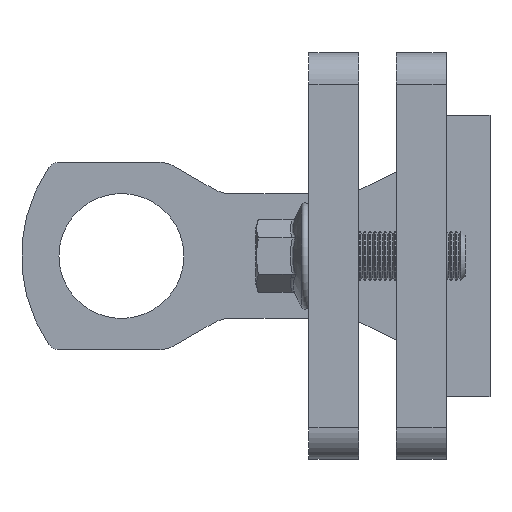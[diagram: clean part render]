
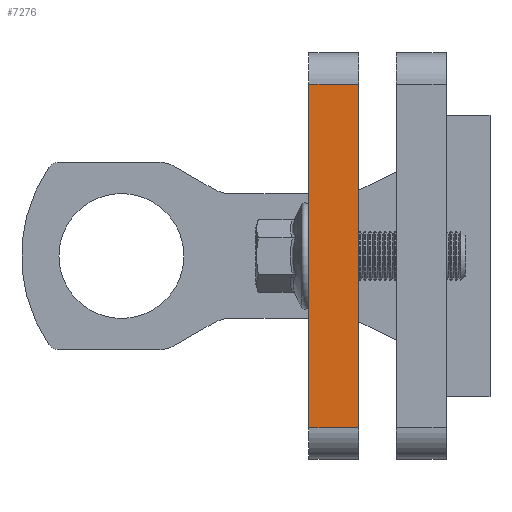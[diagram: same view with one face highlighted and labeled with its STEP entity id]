
A CAD part, left-side view. The second image highlights one B-rep face of the part: STEP entity #7276.
In plain terms, the highlighted planar face has unit normal (-1, 0, 0).
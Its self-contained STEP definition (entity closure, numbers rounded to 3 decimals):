
#215 = CARTESIAN_POINT ( 'NONE',  ( -62.5, 4., -32.5 ) ) ;
#613 = DIRECTION ( 'NONE',  ( 0., 0., -1. ) ) ;
#876 = ORIENTED_EDGE ( 'NONE', *, *, #5001, .T. ) ;
#949 = LINE ( 'NONE', #215, #1747 ) ;
#1096 = EDGE_CURVE ( 'NONE', #6432, #5839, #949, .T. ) ;
#1148 = CARTESIAN_POINT ( 'NONE',  ( -62.5, -4., -27.5 ) ) ;
#1214 = DIRECTION ( 'NONE',  ( 1., 0., 0. ) ) ;
#1229 = ORIENTED_EDGE ( 'NONE', *, *, #1096, .F. ) ;
#1622 = CARTESIAN_POINT ( 'NONE',  ( -62.5, 4., 27.5 ) ) ;
#1710 = CARTESIAN_POINT ( 'NONE',  ( -62.5, 4., -27.5 ) ) ;
#1747 = VECTOR ( 'NONE', #3459, 1000. ) ;
#1763 = DIRECTION ( 'NONE',  ( 0., -1., 0. ) ) ;
#2597 = CARTESIAN_POINT ( 'NONE',  ( -62.5, 4., -32.5 ) ) ;
#2863 = DIRECTION ( 'NONE',  ( 0., 1., 0. ) ) ;
#3137 = EDGE_LOOP ( 'NONE', ( #1229, #4488, #876, #4077 ) ) ;
#3335 = LINE ( 'NONE', #7969, #6580 ) ;
#3410 = LINE ( 'NONE', #1710, #7561 ) ;
#3459 = DIRECTION ( 'NONE',  ( 0., 0., 1. ) ) ;
#3615 = VERTEX_POINT ( 'NONE', #8337 ) ;
#3738 = LINE ( 'NONE', #5665, #5456 ) ;
#4077 = ORIENTED_EDGE ( 'NONE', *, *, #6844, .T. ) ;
#4488 = ORIENTED_EDGE ( 'NONE', *, *, #5685, .T. ) ;
#5001 = EDGE_CURVE ( 'NONE', #8255, #3615, #3738, .T. ) ;
#5125 = DIRECTION ( 'NONE',  ( 0., 0., 1. ) ) ;
#5446 = FACE_OUTER_BOUND ( 'NONE', #3137, .T. ) ;
#5456 = VECTOR ( 'NONE', #5125, 1000. ) ;
#5665 = CARTESIAN_POINT ( 'NONE',  ( -62.5, -4., -32.5 ) ) ;
#5685 = EDGE_CURVE ( 'NONE', #6432, #8255, #3410, .T. ) ;
#5839 = VERTEX_POINT ( 'NONE', #1622 ) ;
#6191 = CARTESIAN_POINT ( 'NONE',  ( -62.5, 4., -27.5 ) ) ;
#6210 = AXIS2_PLACEMENT_3D ( 'NONE', #2597, #1214, #613 ) ;
#6432 = VERTEX_POINT ( 'NONE', #6191 ) ;
#6580 = VECTOR ( 'NONE', #2863, 1000. ) ;
#6844 = EDGE_CURVE ( 'NONE', #3615, #5839, #3335, .T. ) ;
#7276 = ADVANCED_FACE ( 'NONE', ( #5446 ), #8351, .F. ) ;
#7561 = VECTOR ( 'NONE', #1763, 1000. ) ;
#7969 = CARTESIAN_POINT ( 'NONE',  ( -62.5, 4., 27.5 ) ) ;
#8255 = VERTEX_POINT ( 'NONE', #1148 ) ;
#8337 = CARTESIAN_POINT ( 'NONE',  ( -62.5, -4., 27.5 ) ) ;
#8351 = PLANE ( 'NONE',  #6210 ) ;
